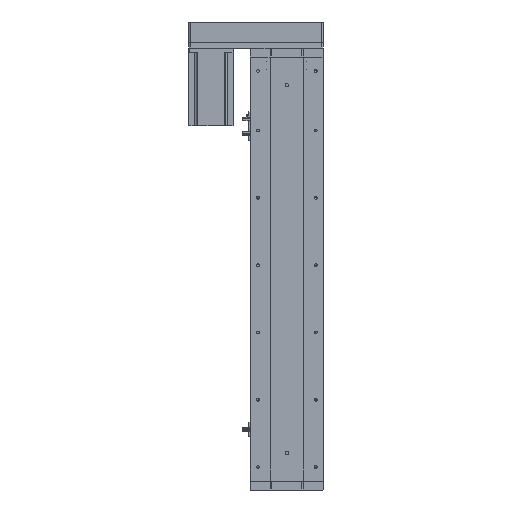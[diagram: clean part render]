
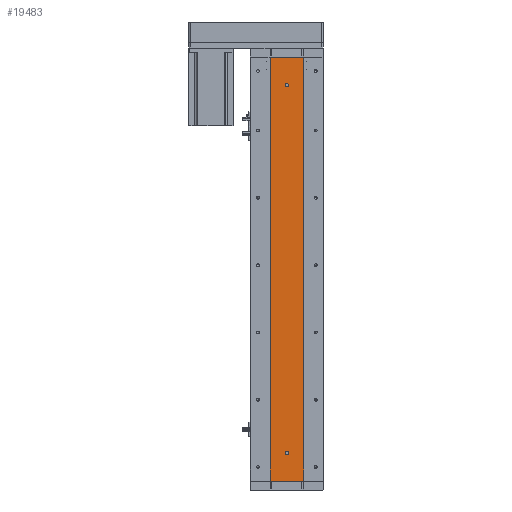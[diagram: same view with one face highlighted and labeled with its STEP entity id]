
A CAD part, left-side view. The second image highlights one B-rep face of the part: STEP entity #19483.
In plain terms, the highlighted planar face has unit normal (-1, 0, 0).
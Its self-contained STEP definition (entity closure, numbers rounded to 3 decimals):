
#689 = VERTEX_POINT ( 'NONE', #3536 ) ;
#725 = EDGE_CURVE ( 'NONE', #40544, #23328, #20528, .T. ) ;
#1019 = CARTESIAN_POINT ( 'NONE',  ( -24.994, 29.785, 756. ) ) ;
#1329 = CARTESIAN_POINT ( 'NONE',  ( -24.994, 0., 53. ) ) ;
#1590 = DIRECTION ( 'NONE',  ( -1., 0., 0. ) ) ;
#2162 = VECTOR ( 'NONE', #17839, 1000. ) ;
#2439 = AXIS2_PLACEMENT_3D ( 'NONE', #36732, #15289, #40289 ) ;
#3536 = CARTESIAN_POINT ( 'NONE',  ( -24.994, 0., 47. ) ) ;
#4121 = VERTEX_POINT ( 'NONE', #21454 ) ;
#6136 = FACE_OUTER_BOUND ( 'NONE', #30198, .T. ) ;
#7271 = ORIENTED_EDGE ( 'NONE', *, *, #43818, .F. ) ;
#7965 = AXIS2_PLACEMENT_3D ( 'NONE', #29819, #8453, #33461 ) ;
#8284 = EDGE_LOOP ( 'NONE', ( #34450, #36427 ) ) ;
#8453 = DIRECTION ( 'NONE',  ( -1., 0., 0. ) ) ;
#8740 = VECTOR ( 'NONE', #22354, 1000. ) ;
#10716 = EDGE_CURVE ( 'NONE', #689, #28394, #21966, .T. ) ;
#10833 = ORIENTED_EDGE ( 'NONE', *, *, #16867, .T. ) ;
#11621 = AXIS2_PLACEMENT_3D ( 'NONE', #11899, #36921, #15493 ) ;
#11808 = PLANE ( 'NONE',  #40435 ) ;
#11899 = CARTESIAN_POINT ( 'NONE',  ( -24.994, 0., 706. ) ) ;
#13087 = CARTESIAN_POINT ( 'NONE',  ( -24.994, 29.785, 756. ) ) ;
#13526 = CARTESIAN_POINT ( 'NONE',  ( -24.994, 0., 703. ) ) ;
#14054 = ORIENTED_EDGE ( 'NONE', *, *, #725, .F. ) ;
#14168 = AXIS2_PLACEMENT_3D ( 'NONE', #22930, #1590, #26472 ) ;
#14269 = CARTESIAN_POINT ( 'NONE',  ( -24.994, 29.785, 0. ) ) ;
#14815 = ORIENTED_EDGE ( 'NONE', *, *, #14951, .F. ) ;
#14951 = EDGE_CURVE ( 'NONE', #36945, #40544, #37282, .T. ) ;
#15289 = DIRECTION ( 'NONE',  ( -1., 0., 0. ) ) ;
#15493 = DIRECTION ( 'NONE',  ( 0., 0., 1. ) ) ;
#15550 = CARTESIAN_POINT ( 'NONE',  ( -24.994, 29.785, 756. ) ) ;
#16198 = CARTESIAN_POINT ( 'NONE',  ( -24.994, -29.785, 0. ) ) ;
#16867 = EDGE_CURVE ( 'NONE', #36945, #26517, #45580, .T. ) ;
#16938 = CIRCLE ( 'NONE', #11621, 3. ) ;
#17775 = EDGE_CURVE ( 'NONE', #4121, #40569, #16938, .T. ) ;
#17839 = DIRECTION ( 'NONE',  ( 0., -1., 0. ) ) ;
#17875 = CARTESIAN_POINT ( 'NONE',  ( -24.994, -29.785, 756. ) ) ;
#18176 = VECTOR ( 'NONE', #41674, 1000. ) ;
#18249 = CARTESIAN_POINT ( 'NONE',  ( -24.994, 29.785, 756. ) ) ;
#19134 = DIRECTION ( 'NONE',  ( 0., 0., -1. ) ) ;
#19483 = ADVANCED_FACE ( 'NONE', ( #43021, #24003, #6136 ), #11808, .F. ) ;
#20528 = LINE ( 'NONE', #17875, #40686 ) ;
#21454 = CARTESIAN_POINT ( 'NONE',  ( -24.994, 0., 709. ) ) ;
#21966 = CIRCLE ( 'NONE', #7965, 3. ) ;
#22354 = DIRECTION ( 'NONE',  ( 0., -1., 0. ) ) ;
#22930 = CARTESIAN_POINT ( 'NONE',  ( -24.994, 0., 50. ) ) ;
#23328 = VERTEX_POINT ( 'NONE', #16198 ) ;
#24003 = FACE_BOUND ( 'NONE', #8284, .T. ) ;
#25039 = DIRECTION ( 'NONE',  ( 0., 0., -1. ) ) ;
#26472 = DIRECTION ( 'NONE',  ( 0., 0., 1. ) ) ;
#26517 = VERTEX_POINT ( 'NONE', #36317 ) ;
#28394 = VERTEX_POINT ( 'NONE', #1329 ) ;
#29819 = CARTESIAN_POINT ( 'NONE',  ( -24.994, 0., 50. ) ) ;
#30198 = EDGE_LOOP ( 'NONE', ( #34500, #14054, #14815, #10833 ) ) ;
#30353 = CIRCLE ( 'NONE', #2439, 3. ) ;
#31711 = LINE ( 'NONE', #14269, #2162 ) ;
#33461 = DIRECTION ( 'NONE',  ( 0., 0., 1. ) ) ;
#34325 = ORIENTED_EDGE ( 'NONE', *, *, #17775, .F. ) ;
#34450 = ORIENTED_EDGE ( 'NONE', *, *, #45800, .F. ) ;
#34500 = ORIENTED_EDGE ( 'NONE', *, *, #40708, .T. ) ;
#36317 = CARTESIAN_POINT ( 'NONE',  ( -24.994, 29.785, 0. ) ) ;
#36427 = ORIENTED_EDGE ( 'NONE', *, *, #10716, .F. ) ;
#36732 = CARTESIAN_POINT ( 'NONE',  ( -24.994, 0., 706. ) ) ;
#36921 = DIRECTION ( 'NONE',  ( -1., 0., 0. ) ) ;
#36945 = VERTEX_POINT ( 'NONE', #18249 ) ;
#37282 = LINE ( 'NONE', #1019, #8740 ) ;
#40285 = CIRCLE ( 'NONE', #14168, 3. ) ;
#40289 = DIRECTION ( 'NONE',  ( 0., 0., 1. ) ) ;
#40435 = AXIS2_PLACEMENT_3D ( 'NONE', #15550, #40555, #19134 ) ;
#40544 = VERTEX_POINT ( 'NONE', #41799 ) ;
#40555 = DIRECTION ( 'NONE',  ( 1., 0., 0. ) ) ;
#40569 = VERTEX_POINT ( 'NONE', #13526 ) ;
#40686 = VECTOR ( 'NONE', #25039, 1000. ) ;
#40708 = EDGE_CURVE ( 'NONE', #26517, #23328, #31711, .T. ) ;
#41297 = EDGE_LOOP ( 'NONE', ( #34325, #7271 ) ) ;
#41674 = DIRECTION ( 'NONE',  ( 0., 0., -1. ) ) ;
#41799 = CARTESIAN_POINT ( 'NONE',  ( -24.994, -29.785, 756. ) ) ;
#43021 = FACE_BOUND ( 'NONE', #41297, .T. ) ;
#43818 = EDGE_CURVE ( 'NONE', #40569, #4121, #30353, .T. ) ;
#45580 = LINE ( 'NONE', #13087, #18176 ) ;
#45800 = EDGE_CURVE ( 'NONE', #28394, #689, #40285, .T. ) ;
